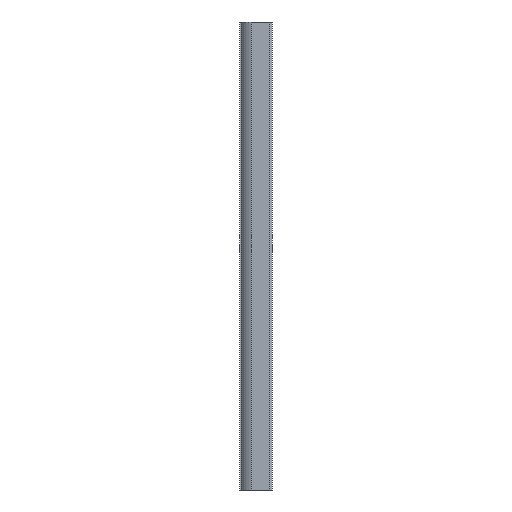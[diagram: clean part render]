
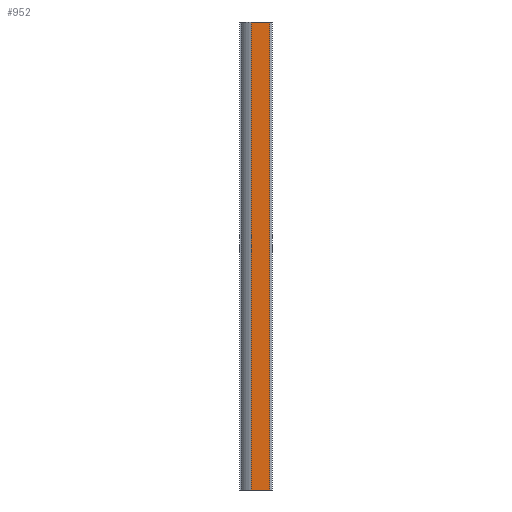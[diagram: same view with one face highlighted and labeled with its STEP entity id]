
A CAD part, left-side view. The second image highlights one B-rep face of the part: STEP entity #952.
In plain terms, the highlighted planar face has unit normal (-1, 0, 0).
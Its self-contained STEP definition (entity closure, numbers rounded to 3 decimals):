
#23 = EDGE_CURVE ( 'NONE', #806, #71, #779, .T. ) ;
#71 = VERTEX_POINT ( 'NONE', #450 ) ;
#117 = CARTESIAN_POINT ( 'NONE',  ( -12.5, 9.82, 250. ) ) ;
#125 = ORIENTED_EDGE ( 'NONE', *, *, #161, .T. ) ;
#161 = EDGE_CURVE ( 'NONE', #651, #379, #471, .T. ) ;
#168 = ORIENTED_EDGE ( 'NONE', *, *, #244, .F. ) ;
#194 = CARTESIAN_POINT ( 'NONE',  ( -12.5, 9.82, 250. ) ) ;
#210 = DIRECTION ( 'NONE',  ( 0., 0., -1. ) ) ;
#213 = DIRECTION ( 'NONE',  ( 0., -1., 0. ) ) ;
#244 = EDGE_CURVE ( 'NONE', #806, #379, #262, .T. ) ;
#262 = LINE ( 'NONE', #194, #725 ) ;
#271 = VECTOR ( 'NONE', #213, 1000. ) ;
#300 = LINE ( 'NONE', #607, #271 ) ;
#345 = CARTESIAN_POINT ( 'NONE',  ( -12.5, -9.5, -250. ) ) ;
#349 = EDGE_CURVE ( 'NONE', #71, #651, #300, .T. ) ;
#379 = VERTEX_POINT ( 'NONE', #546 ) ;
#382 = ORIENTED_EDGE ( 'NONE', *, *, #23, .T. ) ;
#390 = CARTESIAN_POINT ( 'NONE',  ( -12.5, 9.82, 250. ) ) ;
#450 = CARTESIAN_POINT ( 'NONE',  ( -12.5, 9.82, -250. ) ) ;
#471 = LINE ( 'NONE', #575, #479 ) ;
#479 = VECTOR ( 'NONE', #953, 1000. ) ;
#512 = DIRECTION ( 'NONE',  ( 0., -1., 0. ) ) ;
#546 = CARTESIAN_POINT ( 'NONE',  ( -12.5, -9.5, 250. ) ) ;
#575 = CARTESIAN_POINT ( 'NONE',  ( -12.5, -9.5, 250. ) ) ;
#605 = ORIENTED_EDGE ( 'NONE', *, *, #349, .T. ) ;
#607 = CARTESIAN_POINT ( 'NONE',  ( -12.5, 9.82, -250. ) ) ;
#622 = PLANE ( 'NONE',  #677 ) ;
#651 = VERTEX_POINT ( 'NONE', #345 ) ;
#677 = AXIS2_PLACEMENT_3D ( 'NONE', #390, #702, #707 ) ;
#702 = DIRECTION ( 'NONE',  ( 1., 0., 0. ) ) ;
#707 = DIRECTION ( 'NONE',  ( 0., 0., -1. ) ) ;
#725 = VECTOR ( 'NONE', #512, 1000. ) ;
#779 = LINE ( 'NONE', #837, #850 ) ;
#795 = FACE_OUTER_BOUND ( 'NONE', #866, .T. ) ;
#806 = VERTEX_POINT ( 'NONE', #117 ) ;
#837 = CARTESIAN_POINT ( 'NONE',  ( -12.5, 9.82, 250. ) ) ;
#850 = VECTOR ( 'NONE', #210, 1000. ) ;
#866 = EDGE_LOOP ( 'NONE', ( #605, #125, #168, #382 ) ) ;
#952 = ADVANCED_FACE ( 'NONE', ( #795 ), #622, .F. ) ;
#953 = DIRECTION ( 'NONE',  ( 0., 0., 1. ) ) ;
